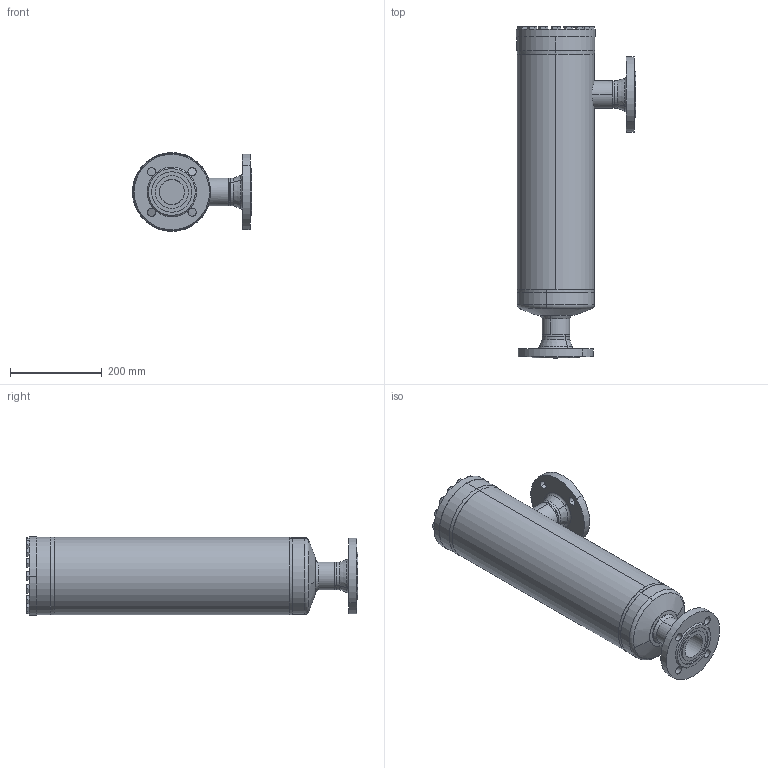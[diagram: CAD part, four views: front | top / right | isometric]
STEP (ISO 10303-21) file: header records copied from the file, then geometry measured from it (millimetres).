
FILE_DESCRIPTION (( 'STEP AP214' ), '1' );
FILE_NAME ('FT56720D15-DN50-7-3_DIN-FL-N_PS40.STEP', '2010-09-13T08:53:52', ( 'Eckhard Grams' ), ( 'AWP Kälte Klima Armaturen GmbH' ), 'SwSTEP 2.0', 'SolidWorks 2002296', '' );
FILE_SCHEMA (( 'AUTOMOTIVE_DESIGN' ));
Length unit declared in the file: millimetre
Products named in the file (18): FT56720D15-DN50-7-3_DIN-FL-N_PS40; Flansch-DIN2635-Nut_PS40_DIN-Flansch-DN050_PS40-Nut; bead56720-50-7b_Standard; bead56720-50-7a_Standard; FT56700D15-DN50-7-3_PS40_Standard; FT Deckel-Schrauben-DN50-80_PS40_Standard; Deckel56700E17-DN50-80_PS40_Standard; Sechskantschraube-DIN933_M12x 30; Geh-kpl-FT-DN50-7-3_PS40_Standard; FT Boden-Führungsrohr DN50_(50-80)_PS25_Standard; Boden-FT-DN20-80_DN 50-3 bis 65 PN25; Führungsrohr-FT-DN20-50_DN 50; bead-Bo-Fü-50-65_Standard; Gehäuse-FT-DN50-80_PS40_50-3; Rohrstutzen-FT-DN20-80_DN 50 (50-80); bead50-Geh-Ko7_Standard; bead50-Geh-Bo5_Standard; Kopfstück-FT-DN50-80_PS40_Standard
Assembly tree (33 placements, depth 5):
  FT56720D15-DN50-7-3_DIN-FL-N_PS40
    Flansch-DIN2635-Nut_PS40_DIN-Flansch-DN050_PS40-Nut  x2
    bead56720-50-7b_Standard
    bead56720-50-7a_Standard
    FT56700D15-DN50-7-3_PS40_Standard
      FT Deckel-Schrauben-DN50-80_PS40_Standard
        Sechskantschraube-DIN933_M12x 30  x16
        Deckel56700E17-DN50-80_PS40_Standard
      Geh-kpl-FT-DN50-7-3_PS40_Standard
        Gehäuse-FT-DN50-80_PS40_50-3
        bead50-Geh-Bo5_Standard
        Kopfstück-FT-DN50-80_PS40_Standard
        bead50-Geh-Ko7_Standard
        Rohrstutzen-FT-DN20-80_DN 50 (50-80)
        FT Boden-Führungsrohr DN50_(50-80)_PS25_Standard
          Boden-FT-DN20-80_DN 50-3 bis 65 PN25
          bead-Bo-Fü-50-65_Standard
          Führungsrohr-FT-DN20-50_DN 50
Bounding box: 260 x 724.4 x 172 mm (x, y, z)
Volume: 3532318.1 mm3; surface area: 987506.3 mm2
Topology: 29 solids, 29 shells, 739 faces, 1634 edges, 964 vertices
Faces by surface type: cone 318, cylinder 199, plane 188, bspline 20, torus 10, sphere 4
Entity records: 16765 total; most frequent: CARTESIAN_POINT 8309, DIRECTION 1710, ORIENTED_EDGE 1480, EDGE_CURVE 740, AXIS2_PLACEMENT_3D 732, VERTEX_POINT 462, EDGE_LOOP 424, CIRCLE 380
